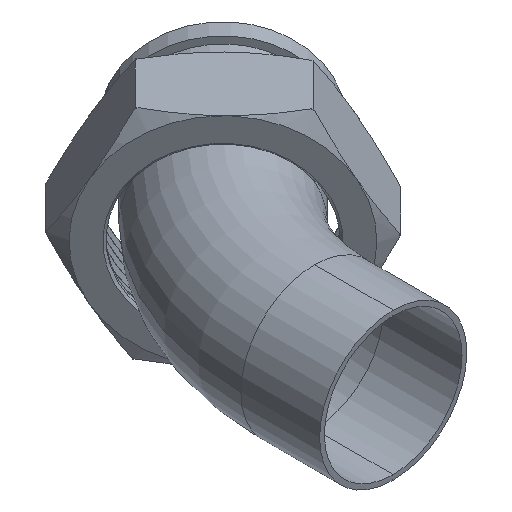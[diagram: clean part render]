
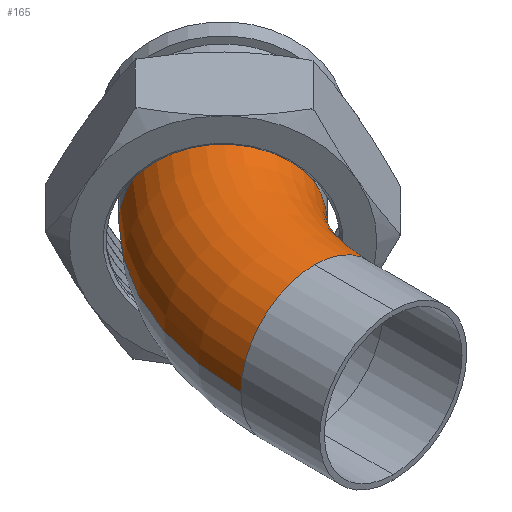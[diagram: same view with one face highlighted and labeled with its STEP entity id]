
A CAD part, isometric view. The second image highlights one B-rep face of the part: STEP entity #165.
In plain terms, the highlighted toroidal (fillet/blend) face has major radius 76.2 mm and minor radius 25.4 mm.
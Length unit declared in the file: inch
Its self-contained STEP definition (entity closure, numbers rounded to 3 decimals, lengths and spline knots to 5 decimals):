
#64 = AXIS2_PLACEMENT_3D ( 'NONE', #4769, #2032, #5203 ) ;
#165 = ADVANCED_FACE ( 'NONE', ( #2306 ), #2016, .T. ) ;
#214 = VERTEX_POINT ( 'NONE', #4382 ) ;
#323 = CIRCLE ( 'NONE', #1667, 1. ) ;
#341 = DIRECTION ( 'NONE',  ( -1., 0., 0. ) ) ;
#412 = CARTESIAN_POINT ( 'NONE',  ( 4.29537, 2.27851, 4.61742 ) ) ;
#875 = DIRECTION ( 'NONE',  ( 1., 0., 0. ) ) ;
#933 = CARTESIAN_POINT ( 'NONE',  ( 2.17405, 4.39983, 4.61742 ) ) ;
#1000 = CIRCLE ( 'NONE', #3567, 1. ) ;
#1042 = CARTESIAN_POINT ( 'NONE',  ( 1.29537, 2.27851, 4.61742 ) ) ;
#1159 = CIRCLE ( 'NONE', #4141, 2. ) ;
#1283 = VERTEX_POINT ( 'NONE', #5742 ) ;
#1324 = EDGE_CURVE ( 'NONE', #5362, #1283, #1159, .T. ) ;
#1334 = EDGE_CURVE ( 'NONE', #2290, #5741, #4679, .T. ) ;
#1364 = EDGE_CURVE ( 'NONE', #214, #2290, #5843, .T. ) ;
#1365 = CARTESIAN_POINT ( 'NONE',  ( 2.88116, 3.69272, 4.61742 ) ) ;
#1392 = DIRECTION ( 'NONE',  ( -0.707, 0.707, 0. ) ) ;
#1438 = EDGE_CURVE ( 'NONE', #214, #5362, #1000, .T. ) ;
#1506 = DIRECTION ( 'NONE',  ( -1., 0., 0. ) ) ;
#1667 = AXIS2_PLACEMENT_3D ( 'NONE', #1042, #4290, #1506 ) ;
#1719 = CARTESIAN_POINT ( 'NONE',  ( 4.29537, 2.27851, 4.61742 ) ) ;
#1810 = ORIENTED_EDGE ( 'NONE', *, *, #1334, .T. ) ;
#1883 = ORIENTED_EDGE ( 'NONE', *, *, #2189, .T. ) ;
#1934 = ORIENTED_EDGE ( 'NONE', *, *, #1324, .F. ) ;
#2016 = TOROIDAL_SURFACE ( 'NONE', #64, 3., 1. ) ;
#2032 = DIRECTION ( 'NONE',  ( 0., 0., 1. ) ) ;
#2033 = CARTESIAN_POINT ( 'NONE',  ( 0.29537, 2.27851, 4.61742 ) ) ;
#2189 = EDGE_CURVE ( 'NONE', #5741, #1283, #323, .T. ) ;
#2202 = DIRECTION ( 'NONE',  ( 1., 0., 0. ) ) ;
#2290 = VERTEX_POINT ( 'NONE', #2033 ) ;
#2306 = FACE_OUTER_BOUND ( 'NONE', #5651, .T. ) ;
#2772 = ORIENTED_EDGE ( 'NONE', *, *, #1438, .F. ) ;
#3152 = DIRECTION ( 'NONE',  ( 0., 1., 0. ) ) ;
#3567 = AXIS2_PLACEMENT_3D ( 'NONE', #933, #4188, #1392 ) ;
#3690 = DIRECTION ( 'NONE',  ( 0., 0., 1. ) ) ;
#3843 = AXIS2_PLACEMENT_3D ( 'NONE', #412, #3690, #875 ) ;
#3877 = CARTESIAN_POINT ( 'NONE',  ( 1.29537, 2.27851, 5.61742 ) ) ;
#3883 = AXIS2_PLACEMENT_3D ( 'NONE', #5802, #3152, #341 ) ;
#4141 = AXIS2_PLACEMENT_3D ( 'NONE', #1719, #4919, #2202 ) ;
#4188 = DIRECTION ( 'NONE',  ( 0.707, 0.707, 0. ) ) ;
#4290 = DIRECTION ( 'NONE',  ( 0., 1., 0. ) ) ;
#4382 = CARTESIAN_POINT ( 'NONE',  ( 1.46695, 5.10693, 4.61742 ) ) ;
#4679 = CIRCLE ( 'NONE', #3883, 1. ) ;
#4769 = CARTESIAN_POINT ( 'NONE',  ( 4.29537, 2.27851, 4.61742 ) ) ;
#4919 = DIRECTION ( 'NONE',  ( 0., 0., 1. ) ) ;
#5203 = DIRECTION ( 'NONE',  ( 1., 0., 0. ) ) ;
#5307 = ORIENTED_EDGE ( 'NONE', *, *, #1364, .T. ) ;
#5362 = VERTEX_POINT ( 'NONE', #1365 ) ;
#5651 = EDGE_LOOP ( 'NONE', ( #2772, #5307, #1810, #1883, #1934 ) ) ;
#5741 = VERTEX_POINT ( 'NONE', #3877 ) ;
#5742 = CARTESIAN_POINT ( 'NONE',  ( 2.29537, 2.27851, 4.61742 ) ) ;
#5802 = CARTESIAN_POINT ( 'NONE',  ( 1.29537, 2.27851, 4.61742 ) ) ;
#5843 = CIRCLE ( 'NONE', #3843, 4. ) ;
